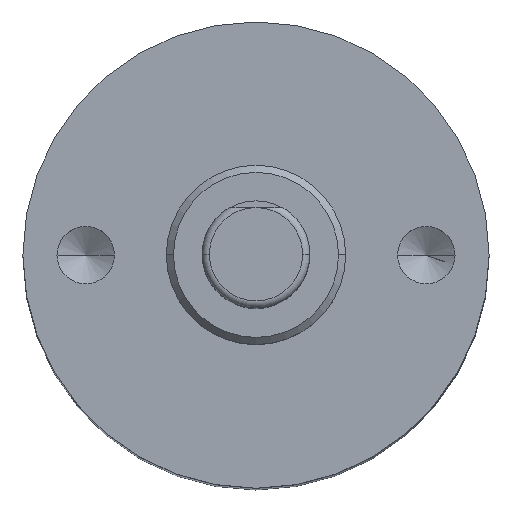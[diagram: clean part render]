
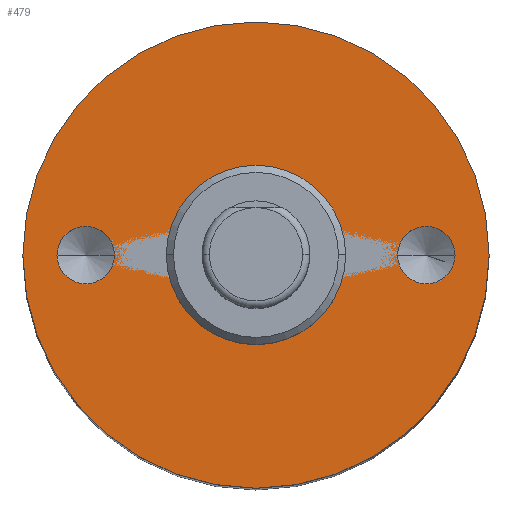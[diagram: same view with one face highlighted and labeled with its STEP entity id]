
A CAD part, top view. The second image highlights one B-rep face of the part: STEP entity #479.
In plain terms, the highlighted planar face has unit normal (0, 0, 1).
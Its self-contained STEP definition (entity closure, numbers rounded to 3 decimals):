
#22 = ORIENTED_EDGE ( 'NONE', *, *, #1460, .F. ) ;
#43 = FACE_OUTER_BOUND ( 'NONE', #82, .T. ) ;
#79 = DIRECTION ( 'NONE',  ( 0., 0., 1. ) ) ;
#82 = EDGE_LOOP ( 'NONE', ( #292, #1213 ) ) ;
#155 = EDGE_CURVE ( 'NONE', #476, #605, #515, .T. ) ;
#175 = CARTESIAN_POINT ( 'NONE',  ( 0., 0., -13.9 ) ) ;
#194 = CARTESIAN_POINT ( 'NONE',  ( 0., 0., -13.9 ) ) ;
#211 = CIRCLE ( 'NONE', #1209, 0.8 ) ;
#215 = EDGE_LOOP ( 'NONE', ( #500, #1377 ) ) ;
#226 = CARTESIAN_POINT ( 'NONE',  ( -2.5, 0., -13.9 ) ) ;
#230 = VERTEX_POINT ( 'NONE', #1170 ) ;
#237 = AXIS2_PLACEMENT_3D ( 'NONE', #1128, #1449, #1218 ) ;
#262 = FACE_BOUND ( 'NONE', #215, .T. ) ;
#275 = CARTESIAN_POINT ( 'NONE',  ( -5.55, 0., -13.9 ) ) ;
#292 = ORIENTED_EDGE ( 'NONE', *, *, #1184, .T. ) ;
#306 = ORIENTED_EDGE ( 'NONE', *, *, #557, .F. ) ;
#344 = CARTESIAN_POINT ( 'NONE',  ( 0., 0., -13.9 ) ) ;
#355 = DIRECTION ( 'NONE',  ( 0., 0., 1. ) ) ;
#380 = FACE_BOUND ( 'NONE', #844, .T. ) ;
#393 = DIRECTION ( 'NONE',  ( 1., 0., 0. ) ) ;
#476 = VERTEX_POINT ( 'NONE', #607 ) ;
#479 = ADVANCED_FACE ( 'NONE', ( #380, #1069, #43, #262 ), #1182, .T. ) ;
#482 = DIRECTION ( 'NONE',  ( 0., 0., 1. ) ) ;
#495 = VERTEX_POINT ( 'NONE', #783 ) ;
#500 = ORIENTED_EDGE ( 'NONE', *, *, #1181, .F. ) ;
#502 = DIRECTION ( 'NONE',  ( 1., 0., 0. ) ) ;
#515 = CIRCLE ( 'NONE', #597, 0.8 ) ;
#520 = CARTESIAN_POINT ( 'NONE',  ( 4.75, 0., -13.9 ) ) ;
#523 = EDGE_CURVE ( 'NONE', #888, #230, #736, .T. ) ;
#530 = DIRECTION ( 'NONE',  ( 0., 0., 1. ) ) ;
#534 = AXIS2_PLACEMENT_3D ( 'NONE', #799, #923, #1266 ) ;
#557 = EDGE_CURVE ( 'NONE', #1020, #785, #640, .T. ) ;
#592 = AXIS2_PLACEMENT_3D ( 'NONE', #1397, #482, #1172 ) ;
#597 = AXIS2_PLACEMENT_3D ( 'NONE', #520, #872, #393 ) ;
#605 = VERTEX_POINT ( 'NONE', #1341 ) ;
#607 = CARTESIAN_POINT ( 'NONE',  ( 3.95, 0., -13.9 ) ) ;
#637 = DIRECTION ( 'NONE',  ( 0., 0., 1. ) ) ;
#640 = CIRCLE ( 'NONE', #237, 0.8 ) ;
#645 = ORIENTED_EDGE ( 'NONE', *, *, #155, .F. ) ;
#671 = DIRECTION ( 'NONE',  ( 1., 0., 0. ) ) ;
#676 = ORIENTED_EDGE ( 'NONE', *, *, #1038, .F. ) ;
#697 = CARTESIAN_POINT ( 'NONE',  ( -3.95, 0., -13.9 ) ) ;
#736 = CIRCLE ( 'NONE', #1419, 6.5 ) ;
#739 = CARTESIAN_POINT ( 'NONE',  ( 0., -2.5, -13.9 ) ) ;
#754 = AXIS2_PLACEMENT_3D ( 'NONE', #344, #1238, #671 ) ;
#781 = EDGE_LOOP ( 'NONE', ( #22, #645 ) ) ;
#783 = CARTESIAN_POINT ( 'NONE',  ( 2.5, 0., -13.9 ) ) ;
#785 = VERTEX_POINT ( 'NONE', #275 ) ;
#799 = CARTESIAN_POINT ( 'NONE',  ( -4.75, 0., -13.9 ) ) ;
#844 = EDGE_LOOP ( 'NONE', ( #306, #676 ) ) ;
#872 = DIRECTION ( 'NONE',  ( 0., 0., 1. ) ) ;
#888 = VERTEX_POINT ( 'NONE', #1476 ) ;
#898 = DIRECTION ( 'NONE',  ( 1., 0., 0. ) ) ;
#923 = DIRECTION ( 'NONE',  ( 0., 0., 1. ) ) ;
#929 = EDGE_CURVE ( 'NONE', #1352, #495, #1304, .T. ) ;
#950 = CIRCLE ( 'NONE', #534, 0.8 ) ;
#983 = DIRECTION ( 'NONE',  ( 1., 0., 0. ) ) ;
#1020 = VERTEX_POINT ( 'NONE', #697 ) ;
#1038 = EDGE_CURVE ( 'NONE', #785, #1020, #950, .T. ) ;
#1069 = FACE_BOUND ( 'NONE', #781, .T. ) ;
#1128 = CARTESIAN_POINT ( 'NONE',  ( -4.75, 0., -13.9 ) ) ;
#1170 = CARTESIAN_POINT ( 'NONE',  ( 6.5, 0., -13.9 ) ) ;
#1172 = DIRECTION ( 'NONE',  ( 1., 0., 0. ) ) ;
#1181 = EDGE_CURVE ( 'NONE', #495, #1352, #1387, .T. ) ;
#1182 = PLANE ( 'NONE',  #1469 ) ;
#1184 = EDGE_CURVE ( 'NONE', #230, #888, #1518, .T. ) ;
#1209 = AXIS2_PLACEMENT_3D ( 'NONE', #1289, #355, #502 ) ;
#1213 = ORIENTED_EDGE ( 'NONE', *, *, #523, .T. ) ;
#1218 = DIRECTION ( 'NONE',  ( 1., 0., 0. ) ) ;
#1238 = DIRECTION ( 'NONE',  ( 0., 0., 1. ) ) ;
#1266 = DIRECTION ( 'NONE',  ( 1., 0., 0. ) ) ;
#1289 = CARTESIAN_POINT ( 'NONE',  ( 4.75, 0., -13.9 ) ) ;
#1304 = CIRCLE ( 'NONE', #1509, 2.5 ) ;
#1341 = CARTESIAN_POINT ( 'NONE',  ( 5.55, 0., -13.9 ) ) ;
#1352 = VERTEX_POINT ( 'NONE', #226 ) ;
#1377 = ORIENTED_EDGE ( 'NONE', *, *, #929, .F. ) ;
#1387 = CIRCLE ( 'NONE', #592, 2.5 ) ;
#1397 = CARTESIAN_POINT ( 'NONE',  ( 0., 0., -13.9 ) ) ;
#1419 = AXIS2_PLACEMENT_3D ( 'NONE', #175, #530, #983 ) ;
#1443 = DIRECTION ( 'NONE',  ( 1., 0., 0. ) ) ;
#1449 = DIRECTION ( 'NONE',  ( 0., 0., 1. ) ) ;
#1460 = EDGE_CURVE ( 'NONE', #605, #476, #211, .T. ) ;
#1469 = AXIS2_PLACEMENT_3D ( 'NONE', #739, #637, #1443 ) ;
#1476 = CARTESIAN_POINT ( 'NONE',  ( -6.5, 0., -13.9 ) ) ;
#1509 = AXIS2_PLACEMENT_3D ( 'NONE', #194, #79, #898 ) ;
#1518 = CIRCLE ( 'NONE', #754, 6.5 ) ;
